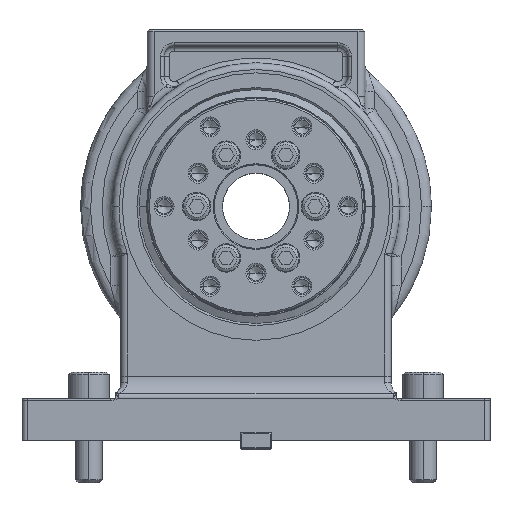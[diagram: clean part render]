
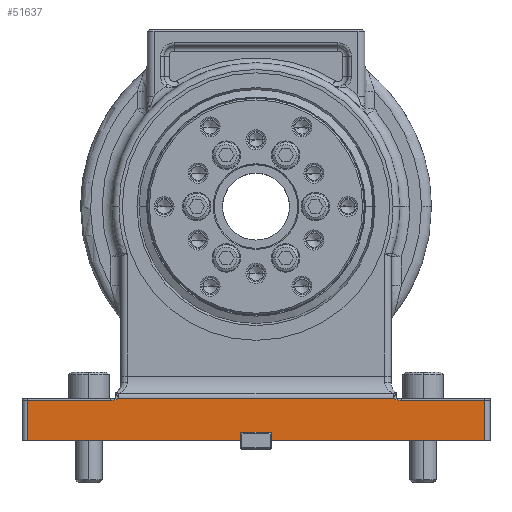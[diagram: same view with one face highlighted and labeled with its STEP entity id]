
A CAD part, top view. The second image highlights one B-rep face of the part: STEP entity #51637.
In plain terms, the highlighted planar face has unit normal (0, 0, 1).
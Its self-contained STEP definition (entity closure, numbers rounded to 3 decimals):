
#843 = LINE ( 'NONE', #27703, #34350 ) ;
#2117 = EDGE_CURVE ( 'NONE', #58427, #27939, #45750, .T. ) ;
#2699 = EDGE_CURVE ( 'NONE', #52407, #29115, #56444, .T. ) ;
#2905 = DIRECTION ( 'NONE',  ( 0., 1., 0. ) ) ;
#3651 = LINE ( 'NONE', #9094, #35139 ) ;
#4082 = DIRECTION ( 'NONE',  ( 0., -1., 0. ) ) ;
#4534 = CARTESIAN_POINT ( 'NONE',  ( 0., 0., -6.5 ) ) ;
#4820 = DIRECTION ( 'NONE',  ( 0., 0., 1. ) ) ;
#4875 = VERTEX_POINT ( 'NONE', #47199 ) ;
#5402 = CARTESIAN_POINT ( 'NONE',  ( 9., -140., -6.5 ) ) ;
#5455 = CARTESIAN_POINT ( 'NONE',  ( -82.18, -114.762, -6.5 ) ) ;
#5682 = VERTEX_POINT ( 'NONE', #8521 ) ;
#5937 = ORIENTED_EDGE ( 'NONE', *, *, #12517, .T. ) ;
#7737 = ORIENTED_EDGE ( 'NONE', *, *, #22500, .T. ) ;
#8030 = ORIENTED_EDGE ( 'NONE', *, *, #70733, .T. ) ;
#8108 = CARTESIAN_POINT ( 'NONE',  ( -137., -140., -6.5 ) ) ;
#8517 = EDGE_CURVE ( 'NONE', #53805, #50066, #32453, .T. ) ;
#8521 = CARTESIAN_POINT ( 'NONE',  ( 9., -135., -6.5 ) ) ;
#9094 = CARTESIAN_POINT ( 'NONE',  ( 9., -135., -6.5 ) ) ;
#9274 = VECTOR ( 'NONE', #57337, 1000. ) ;
#12043 = EDGE_CURVE ( 'NONE', #59174, #43593, #843, .T. ) ;
#12328 = VECTOR ( 'NONE', #4082, 1000. ) ;
#12517 = EDGE_CURVE ( 'NONE', #29115, #53805, #38112, .T. ) ;
#13242 = EDGE_LOOP ( 'NONE', ( #8030, #28741, #13614, #33424, #61550, #7737, #78064, #54823, #36087, #25319, #5937, #59745 ) ) ;
#13614 = ORIENTED_EDGE ( 'NONE', *, *, #39092, .T. ) ;
#14714 = CARTESIAN_POINT ( 'NONE',  ( -9., -140., -6.5 ) ) ;
#15390 = DIRECTION ( 'NONE',  ( -1., 0., 0. ) ) ;
#15808 = CARTESIAN_POINT ( 'NONE',  ( -9., -135., -6.5 ) ) ;
#15975 = FACE_OUTER_BOUND ( 'NONE', #13242, .T. ) ;
#16357 = CARTESIAN_POINT ( 'NONE',  ( 0., -116., -6.5 ) ) ;
#19641 = CARTESIAN_POINT ( 'NONE',  ( 87., -106., -6.5 ) ) ;
#21924 = VECTOR ( 'NONE', #48013, 1000. ) ;
#22500 = EDGE_CURVE ( 'NONE', #5682, #59174, #34544, .T. ) ;
#22537 = CARTESIAN_POINT ( 'NONE',  ( -87., -106., -6.5 ) ) ;
#23396 = VECTOR ( 'NONE', #39989, 1000. ) ;
#23532 = CARTESIAN_POINT ( 'NONE',  ( 9., -135., -6.5 ) ) ;
#23796 = AXIS2_PLACEMENT_3D ( 'NONE', #19641, #63657, #32265 ) ;
#23851 = EDGE_CURVE ( 'NONE', #43593, #4875, #66076, .T. ) ;
#23885 = LINE ( 'NONE', #16357, #21924 ) ;
#25319 = ORIENTED_EDGE ( 'NONE', *, *, #2699, .T. ) ;
#26334 = CARTESIAN_POINT ( 'NONE',  ( 82.18, -114.762, -6.5 ) ) ;
#27487 = DIRECTION ( 'NONE',  ( -1., 0., 0. ) ) ;
#27703 = CARTESIAN_POINT ( 'NONE',  ( -140., -140., -6.5 ) ) ;
#27939 = VERTEX_POINT ( 'NONE', #8108 ) ;
#28741 = ORIENTED_EDGE ( 'NONE', *, *, #2117, .T. ) ;
#28858 = DIRECTION ( 'NONE',  ( 1., 0., 0. ) ) ;
#29080 = AXIS2_PLACEMENT_3D ( 'NONE', #4534, #4820, #48847 ) ;
#29115 = VERTEX_POINT ( 'NONE', #26334 ) ;
#32265 = DIRECTION ( 'NONE',  ( 1., 0., 0. ) ) ;
#32453 = CIRCLE ( 'NONE', #71585, 10. ) ;
#33424 = ORIENTED_EDGE ( 'NONE', *, *, #71470, .F. ) ;
#33559 = CARTESIAN_POINT ( 'NONE',  ( -137., -116., -6.5 ) ) ;
#33863 = VERTEX_POINT ( 'NONE', #14714 ) ;
#34350 = VECTOR ( 'NONE', #52786, 1000. ) ;
#34544 = LINE ( 'NONE', #23532, #66112 ) ;
#34792 = DIRECTION ( 'NONE',  ( 0., -1., 0. ) ) ;
#35139 = VECTOR ( 'NONE', #15390, 1000. ) ;
#35883 = PLANE ( 'NONE',  #29080 ) ;
#36087 = ORIENTED_EDGE ( 'NONE', *, *, #51553, .T. ) ;
#36181 = DIRECTION ( 'NONE',  ( 0., -1., 0. ) ) ;
#36755 = CARTESIAN_POINT ( 'NONE',  ( 137., -140., -6.5 ) ) ;
#38112 = LINE ( 'NONE', #46345, #23396 ) ;
#39092 = EDGE_CURVE ( 'NONE', #27939, #33863, #74289, .T. ) ;
#39989 = DIRECTION ( 'NONE',  ( -1., 0., 0. ) ) ;
#43593 = VERTEX_POINT ( 'NONE', #36755 ) ;
#44089 = CARTESIAN_POINT ( 'NONE',  ( -87., -116., -6.5 ) ) ;
#45750 = LINE ( 'NONE', #60784, #12328 ) ;
#46345 = CARTESIAN_POINT ( 'NONE',  ( -140., -114.762, -6.5 ) ) ;
#46898 = CARTESIAN_POINT ( 'NONE',  ( 137., 0., -6.5 ) ) ;
#47199 = CARTESIAN_POINT ( 'NONE',  ( 137., -116., -6.5 ) ) ;
#48013 = DIRECTION ( 'NONE',  ( -1., 0., 0. ) ) ;
#48847 = DIRECTION ( 'NONE',  ( 1., 0., 0. ) ) ;
#49309 = VECTOR ( 'NONE', #2905, 1000. ) ;
#50066 = VERTEX_POINT ( 'NONE', #44089 ) ;
#51014 = CARTESIAN_POINT ( 'NONE',  ( -140., -140., -6.5 ) ) ;
#51553 = EDGE_CURVE ( 'NONE', #4875, #52407, #23885, .T. ) ;
#51637 = ADVANCED_FACE ( 'NONE', ( #15975 ), #35883, .T. ) ;
#52407 = VERTEX_POINT ( 'NONE', #77500 ) ;
#52786 = DIRECTION ( 'NONE',  ( 1., 0., 0. ) ) ;
#52905 = VECTOR ( 'NONE', #34792, 1000. ) ;
#53637 = CARTESIAN_POINT ( 'NONE',  ( -9., -135., -6.5 ) ) ;
#53805 = VERTEX_POINT ( 'NONE', #5455 ) ;
#54823 = ORIENTED_EDGE ( 'NONE', *, *, #23851, .T. ) ;
#56444 = CIRCLE ( 'NONE', #23796, 10. ) ;
#57337 = DIRECTION ( 'NONE',  ( 1., 0., 0. ) ) ;
#58427 = VERTEX_POINT ( 'NONE', #33559 ) ;
#58871 = CARTESIAN_POINT ( 'NONE',  ( 0., -116., -6.5 ) ) ;
#59174 = VERTEX_POINT ( 'NONE', #5402 ) ;
#59745 = ORIENTED_EDGE ( 'NONE', *, *, #8517, .T. ) ;
#60127 = EDGE_CURVE ( 'NONE', #5682, #70824, #3651, .T. ) ;
#60784 = CARTESIAN_POINT ( 'NONE',  ( -137., 0., -6.5 ) ) ;
#61550 = ORIENTED_EDGE ( 'NONE', *, *, #60127, .F. ) ;
#63657 = DIRECTION ( 'NONE',  ( 0., 0., -1. ) ) ;
#66076 = LINE ( 'NONE', #46898, #49309 ) ;
#66112 = VECTOR ( 'NONE', #36181, 1000. ) ;
#66625 = DIRECTION ( 'NONE',  ( 0., 0., -1. ) ) ;
#69702 = LINE ( 'NONE', #15808, #52905 ) ;
#70733 = EDGE_CURVE ( 'NONE', #50066, #58427, #75755, .T. ) ;
#70824 = VERTEX_POINT ( 'NONE', #53637 ) ;
#71470 = EDGE_CURVE ( 'NONE', #70824, #33863, #69702, .T. ) ;
#71585 = AXIS2_PLACEMENT_3D ( 'NONE', #22537, #66625, #28858 ) ;
#73789 = VECTOR ( 'NONE', #27487, 1000. ) ;
#74289 = LINE ( 'NONE', #51014, #9274 ) ;
#75755 = LINE ( 'NONE', #58871, #73789 ) ;
#77500 = CARTESIAN_POINT ( 'NONE',  ( 87., -116., -6.5 ) ) ;
#78064 = ORIENTED_EDGE ( 'NONE', *, *, #12043, .T. ) ;
